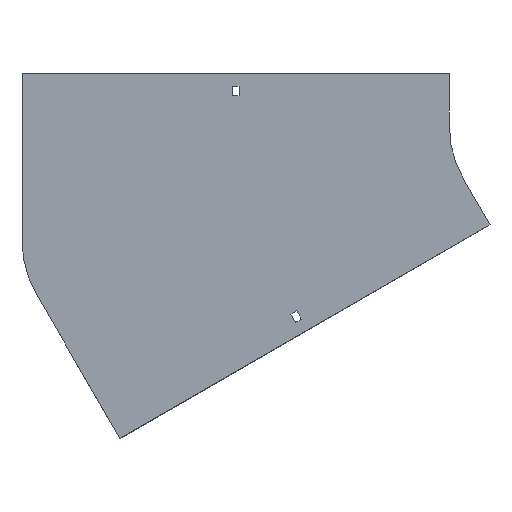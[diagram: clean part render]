
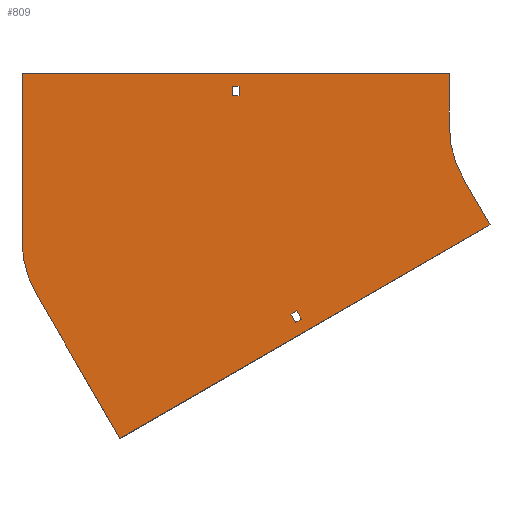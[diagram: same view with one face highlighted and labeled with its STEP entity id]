
A CAD part, front view. The second image highlights one B-rep face of the part: STEP entity #809.
In plain terms, the highlighted planar face has unit normal (0, -1, 0).
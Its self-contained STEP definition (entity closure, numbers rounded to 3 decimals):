
#18 = CARTESIAN_POINT ( 'NONE',  ( -298.75, 0., 29. ) ) ;
#24 = EDGE_CURVE ( 'NONE', #101, #873, #252, .T. ) ;
#33 = CARTESIAN_POINT ( 'NONE',  ( -100., 0., 50. ) ) ;
#36 = CARTESIAN_POINT ( 'NONE',  ( -244.225, 0., -174.49 ) ) ;
#43 = CIRCLE ( 'NONE', #145, 100. ) ;
#52 = PLANE ( 'NONE',  #954 ) ;
#57 = DIRECTION ( 'NONE',  ( 0., 0., 1. ) ) ;
#74 = VECTOR ( 'NONE', #1506, 1000. ) ;
#82 = CARTESIAN_POINT ( 'NONE',  ( -86.603, 0., -50. ) ) ;
#101 = VERTEX_POINT ( 'NONE', #238 ) ;
#110 = EDGE_CURVE ( 'NONE', #1413, #1950, #1679, .T. ) ;
#123 = EDGE_CURVE ( 'NONE', #210, #461, #248, .T. ) ;
#125 = VERTEX_POINT ( 'NONE', #713 ) ;
#130 = LINE ( 'NONE', #611, #890 ) ;
#140 = CARTESIAN_POINT ( 'NONE',  ( -305.25, 0., 38. ) ) ;
#145 = AXIS2_PLACEMENT_3D ( 'NONE', #387, #838, #1592 ) ;
#177 = ORIENTED_EDGE ( 'NONE', *, *, #1931, .T. ) ;
#210 = VERTEX_POINT ( 'NONE', #140 ) ;
#211 = VERTEX_POINT ( 'NONE', #595 ) ;
#212 = EDGE_CURVE ( 'NONE', #461, #1333, #1516, .T. ) ;
#225 = FACE_BOUND ( 'NONE', #1473, .T. ) ;
#238 = CARTESIAN_POINT ( 'NONE',  ( -245.354, 0., -185.534 ) ) ;
#248 = LINE ( 'NONE', #853, #491 ) ;
#251 = ORIENTED_EDGE ( 'NONE', *, *, #24, .F. ) ;
#252 = LINE ( 'NONE', #558, #1385 ) ;
#268 = ORIENTED_EDGE ( 'NONE', *, *, #289, .F. ) ;
#289 = EDGE_CURVE ( 'NONE', #1950, #1462, #1739, .T. ) ;
#318 = ORIENTED_EDGE ( 'NONE', *, *, #904, .F. ) ;
#326 = ORIENTED_EDGE ( 'NONE', *, *, #212, .T. ) ;
#349 = DIRECTION ( 'NONE',  ( 0., 0., -1. ) ) ;
#353 = LINE ( 'NONE', #636, #1426 ) ;
#361 = VERTEX_POINT ( 'NONE', #597 ) ;
#373 = DIRECTION ( 'NONE',  ( -1., 0., 0. ) ) ;
#387 = CARTESIAN_POINT ( 'NONE',  ( 0., 0., 0. ) ) ;
#444 = CARTESIAN_POINT ( 'NONE',  ( -61.603, 0., -93.301 ) ) ;
#447 = DIRECTION ( 'NONE',  ( 1., 0., 0. ) ) ;
#458 = EDGE_CURVE ( 'NONE', #211, #101, #902, .T. ) ;
#460 = EDGE_CURVE ( 'NONE', #1647, #125, #550, .T. ) ;
#461 = VERTEX_POINT ( 'NONE', #861 ) ;
#491 = VECTOR ( 'NONE', #1340, 1000. ) ;
#496 = VECTOR ( 'NONE', #373, 1000. ) ;
#514 = FACE_OUTER_BOUND ( 'NONE', #1193, .T. ) ;
#550 = LINE ( 'NONE', #1616, #1909 ) ;
#558 = CARTESIAN_POINT ( 'NONE',  ( -245.354, 0., -185.534 ) ) ;
#570 = VECTOR ( 'NONE', #1359, 1000. ) ;
#571 = ORIENTED_EDGE ( 'NONE', *, *, #718, .F. ) ;
#583 = VECTOR ( 'NONE', #447, 1000. ) ;
#589 = DIRECTION ( 'NONE',  ( 0.866, 0., 0.5 ) ) ;
#592 = ORIENTED_EDGE ( 'NONE', *, *, #458, .F. ) ;
#595 = CARTESIAN_POINT ( 'NONE',  ( -249.854, 0., -177.74 ) ) ;
#597 = CARTESIAN_POINT ( 'NONE',  ( -86.603, 0., -50. ) ) ;
#611 = CARTESIAN_POINT ( 'NONE',  ( -305.25, 0., 29. ) ) ;
#636 = CARTESIAN_POINT ( 'NONE',  ( -411.477, 0., -295.301 ) ) ;
#643 = VERTEX_POINT ( 'NONE', #1845 ) ;
#670 = VERTEX_POINT ( 'NONE', #1721 ) ;
#681 = LINE ( 'NONE', #1534, #583 ) ;
#682 = DIRECTION ( 'NONE',  ( 0., 0., 1. ) ) ;
#683 = LINE ( 'NONE', #1903, #496 ) ;
#713 = CARTESIAN_POINT ( 'NONE',  ( -100., 0., 0. ) ) ;
#718 = EDGE_CURVE ( 'NONE', #1462, #1647, #681, .T. ) ;
#720 = VERTEX_POINT ( 'NONE', #36 ) ;
#723 = DIRECTION ( 'NONE',  ( 0., 1., 0. ) ) ;
#790 = VECTOR ( 'NONE', #1764, 1000. ) ;
#809 = ADVANCED_FACE ( 'NONE', ( #1559, #514, #225 ), #52, .T. ) ;
#838 = DIRECTION ( 'NONE',  ( 0., -1., 0. ) ) ;
#853 = CARTESIAN_POINT ( 'NONE',  ( -305.25, 0., 38. ) ) ;
#861 = CARTESIAN_POINT ( 'NONE',  ( -298.75, 0., 38. ) ) ;
#865 = ORIENTED_EDGE ( 'NONE', *, *, #110, .F. ) ;
#873 = VERTEX_POINT ( 'NONE', #1742 ) ;
#874 = CARTESIAN_POINT ( 'NONE',  ( -249.854, 0., -177.74 ) ) ;
#885 = ORIENTED_EDGE ( 'NONE', *, *, #460, .F. ) ;
#890 = VECTOR ( 'NONE', #1633, 1000. ) ;
#902 = LINE ( 'NONE', #874, #790 ) ;
#904 = EDGE_CURVE ( 'NONE', #125, #361, #43, .T. ) ;
#952 = EDGE_CURVE ( 'NONE', #361, #670, #1480, .T. ) ;
#954 = AXIS2_PLACEMENT_3D ( 'NONE', #1124, #1849, #349 ) ;
#979 = ORIENTED_EDGE ( 'NONE', *, *, #123, .T. ) ;
#992 = ORIENTED_EDGE ( 'NONE', *, *, #1855, .F. ) ;
#1015 = EDGE_CURVE ( 'NONE', #670, #1083, #1830, .T. ) ;
#1042 = ORIENTED_EDGE ( 'NONE', *, *, #1750, .T. ) ;
#1052 = LINE ( 'NONE', #1942, #570 ) ;
#1074 = AXIS2_PLACEMENT_3D ( 'NONE', #1474, #723, #682 ) ;
#1083 = VERTEX_POINT ( 'NONE', #1519 ) ;
#1094 = ORIENTED_EDGE ( 'NONE', *, *, #1217, .F. ) ;
#1119 = EDGE_LOOP ( 'NONE', ( #177, #979, #326, #1042 ) ) ;
#1124 = CARTESIAN_POINT ( 'NONE',  ( 0., 0., 0. ) ) ;
#1168 = DIRECTION ( 'NONE',  ( 0., 0., -1. ) ) ;
#1193 = EDGE_LOOP ( 'NONE', ( #571, #268, #865, #1800, #1483, #1851, #318, #885 ) ) ;
#1217 = EDGE_CURVE ( 'NONE', #873, #720, #1401, .T. ) ;
#1250 = DIRECTION ( 'NONE',  ( -0.5, 0., 0.866 ) ) ;
#1295 = CARTESIAN_POINT ( 'NONE',  ( -504., 0., -108.251 ) ) ;
#1332 = DIRECTION ( 'NONE',  ( 0.5, 0., -0.866 ) ) ;
#1333 = VERTEX_POINT ( 'NONE', #1444 ) ;
#1340 = DIRECTION ( 'NONE',  ( 1., 0., 0. ) ) ;
#1359 = DIRECTION ( 'NONE',  ( -0.866, 0., -0.5 ) ) ;
#1371 = CARTESIAN_POINT ( 'NONE',  ( -490.603, 0., -158.251 ) ) ;
#1385 = VECTOR ( 'NONE', #589, 1000. ) ;
#1396 = CARTESIAN_POINT ( 'NONE',  ( -504., 0., -108.251 ) ) ;
#1401 = LINE ( 'NONE', #1532, #1436 ) ;
#1413 = VERTEX_POINT ( 'NONE', #1371 ) ;
#1426 = VECTOR ( 'NONE', #1837, 1000. ) ;
#1436 = VECTOR ( 'NONE', #1250, 1000. ) ;
#1444 = CARTESIAN_POINT ( 'NONE',  ( -298.75, 0., 29. ) ) ;
#1462 = VERTEX_POINT ( 'NONE', #1648 ) ;
#1473 = EDGE_LOOP ( 'NONE', ( #251, #592, #992, #1094 ) ) ;
#1474 = CARTESIAN_POINT ( 'NONE',  ( -404., 0., -108.251 ) ) ;
#1480 = LINE ( 'NONE', #82, #1622 ) ;
#1483 = ORIENTED_EDGE ( 'NONE', *, *, #1015, .F. ) ;
#1506 = DIRECTION ( 'NONE',  ( 0., 0., -1. ) ) ;
#1516 = LINE ( 'NONE', #18, #74 ) ;
#1519 = CARTESIAN_POINT ( 'NONE',  ( -411.477, 0., -295.301 ) ) ;
#1524 = EDGE_CURVE ( 'NONE', #1083, #1413, #353, .T. ) ;
#1532 = CARTESIAN_POINT ( 'NONE',  ( -244.225, 0., -174.49 ) ) ;
#1534 = CARTESIAN_POINT ( 'NONE',  ( -504., 0., 50. ) ) ;
#1559 = FACE_BOUND ( 'NONE', #1119, .T. ) ;
#1592 = DIRECTION ( 'NONE',  ( 0., 0., -1. ) ) ;
#1616 = CARTESIAN_POINT ( 'NONE',  ( -100., 0., 50. ) ) ;
#1622 = VECTOR ( 'NONE', #1332, 1000. ) ;
#1624 = VECTOR ( 'NONE', #1817, 1000. ) ;
#1633 = DIRECTION ( 'NONE',  ( 0., 0., 1. ) ) ;
#1647 = VERTEX_POINT ( 'NONE', #33 ) ;
#1648 = CARTESIAN_POINT ( 'NONE',  ( -504., 0., 50. ) ) ;
#1679 = CIRCLE ( 'NONE', #1074, 100. ) ;
#1721 = CARTESIAN_POINT ( 'NONE',  ( -61.603, 0., -93.301 ) ) ;
#1739 = LINE ( 'NONE', #1295, #1905 ) ;
#1742 = CARTESIAN_POINT ( 'NONE',  ( -239.725, 0., -182.284 ) ) ;
#1750 = EDGE_CURVE ( 'NONE', #1333, #643, #683, .T. ) ;
#1764 = DIRECTION ( 'NONE',  ( 0.5, 0., -0.866 ) ) ;
#1800 = ORIENTED_EDGE ( 'NONE', *, *, #1524, .F. ) ;
#1817 = DIRECTION ( 'NONE',  ( -0.866, 0., -0.5 ) ) ;
#1830 = LINE ( 'NONE', #444, #1624 ) ;
#1837 = DIRECTION ( 'NONE',  ( -0.5, 0., 0.866 ) ) ;
#1845 = CARTESIAN_POINT ( 'NONE',  ( -305.25, 0., 29. ) ) ;
#1849 = DIRECTION ( 'NONE',  ( 0., -1., 0. ) ) ;
#1851 = ORIENTED_EDGE ( 'NONE', *, *, #952, .F. ) ;
#1855 = EDGE_CURVE ( 'NONE', #720, #211, #1052, .T. ) ;
#1903 = CARTESIAN_POINT ( 'NONE',  ( -305.25, 0., 29. ) ) ;
#1905 = VECTOR ( 'NONE', #57, 1000. ) ;
#1909 = VECTOR ( 'NONE', #1168, 1000. ) ;
#1931 = EDGE_CURVE ( 'NONE', #643, #210, #130, .T. ) ;
#1942 = CARTESIAN_POINT ( 'NONE',  ( -249.854, 0., -177.74 ) ) ;
#1950 = VERTEX_POINT ( 'NONE', #1396 ) ;
